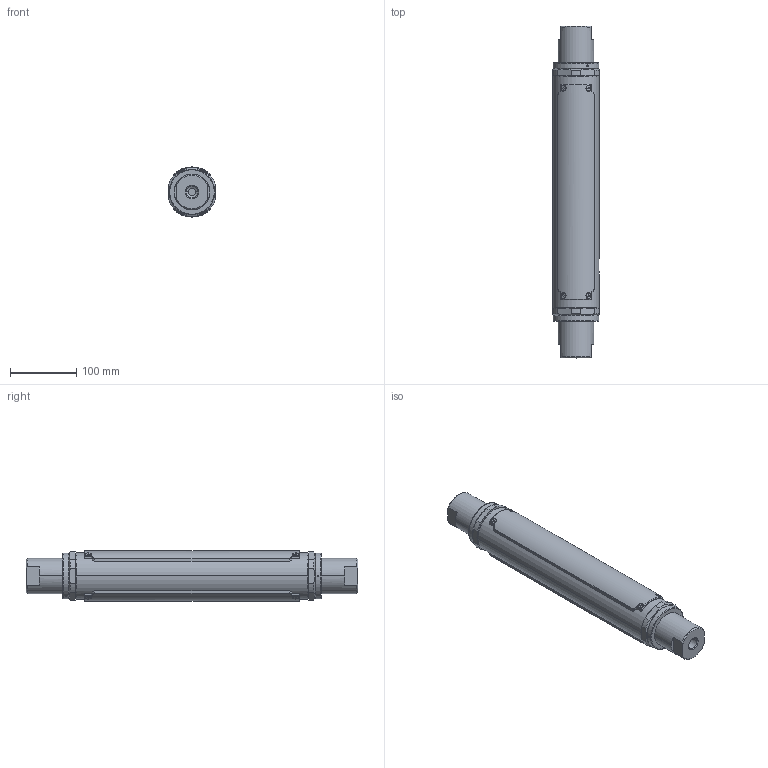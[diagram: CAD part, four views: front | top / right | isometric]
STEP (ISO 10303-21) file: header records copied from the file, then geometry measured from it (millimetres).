
FILE_DESCRIPTION (( 'STEP AP203' ), '1' );
FILE_NAME ('1614-KF-2-AA-0-0.STEP', '2022-10-07T16:42:39', ( '' ), ( '' ), 'SwSTEP 2.0', 'SolidWorks 2020', '' );
FILE_SCHEMA (( 'CONFIG_CONTROL_DESIGN' ));
Length unit declared in the file: inch
Products named in the file (1): 1614-KF-2-AA-0-0
Bounding box: 70 x 500 x 75.49 mm (x, y, z)
Volume: 1364716.5 mm3; surface area: 325273.7 mm2
Topology: 16 solids, 16 shells, 1123 faces, 2829 edges, 1810 vertices
Faces by surface type: plane 438, cylinder 293, bspline 288, cone 100, torus 4
Entity records: 53705 total; most frequent: CARTESIAN_POINT 29572, ORIENTED_EDGE 5658, DIRECTION 3891, EDGE_CURVE 2829, VERTEX_POINT 1810, AXIS2_PLACEMENT_3D 1422, EDGE_LOOP 1275, FACE_OUTER_BOUND 1123
